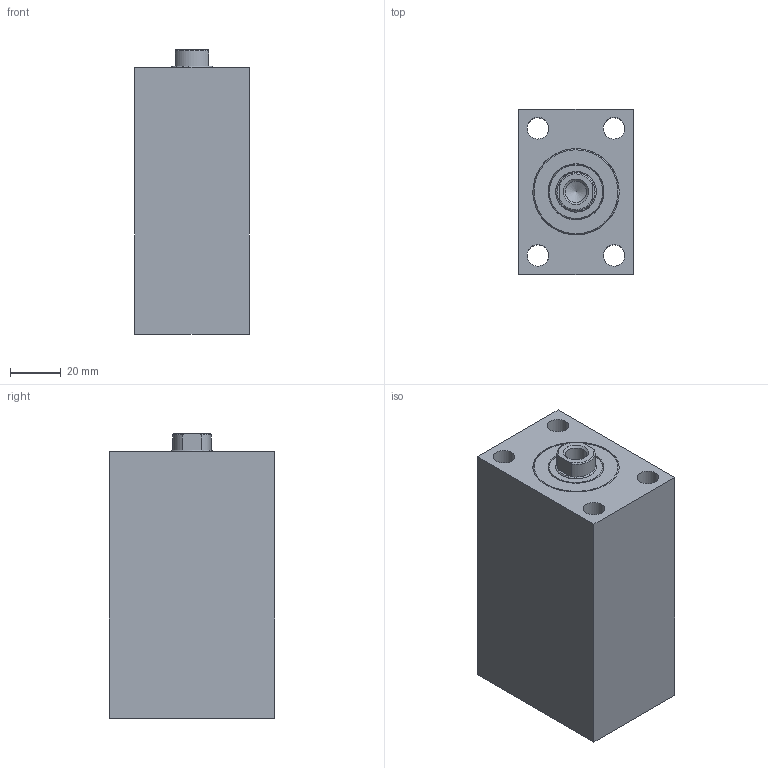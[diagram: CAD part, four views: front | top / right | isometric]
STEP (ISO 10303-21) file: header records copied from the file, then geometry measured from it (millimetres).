
FILE_DESCRIPTION( ( 'STEP AP203' ), '1' );
FILE_NAME( 'C:/Users/SAYKO.ltd/Desktop/SBZ100/02/SBZ100-25/SBZ100.25__FORM_02_STROKE_40__H2_58_POS_0_.stp', ' ', ( ' ' ), ( ' ' ), 'PSStep 15.0.47', 'PARTsolutions', ' ' );
FILE_SCHEMA( ( 'CONFIG_CONTROL_DESIGN' ) );
Length unit declared in the file: millimetre
Products named in the file (5): SBZ100.25  FORM=02 STROKE=40 (H2=58 POS=0); HI_SBZ10025  FORM=02 STROKE=40 H2=58 -C; HI_SBZ10025  FORM=02 STROKE=40-R; HI_SBZ100.25-C; HI_SBZ100.25-S
Assembly tree (4 placements, depth 2):
  SBZ100.25  FORM=02 STROKE=40 (H2=58 POS=0)
    HI_SBZ10025  FORM=02 STROKE=40 H2=58 -C
    HI_SBZ10025  FORM=02 STROKE=40-R
    HI_SBZ100.25-C
    HI_SBZ100.25-S
Bounding box: 45 x 65 x 112 mm (x, y, z)
Volume: 265089.5 mm3; surface area: 63457.2 mm2
Topology: 4 solids, 4 shells, 66 faces, 130 edges, 85 vertices
Faces by surface type: plane 31, cylinder 28, cone 4, torus 3
Full cylindrical faces by diameter (mm): 3 x2, 8.376 x1, 8.5 x4, 11.445 x2, 13.6 x4, 16 x6, 22 x1, 24 x2, 25 x2, 34 x2
Entity records: 3609 total; most frequent: CARTESIAN_POINT 2379, ORIENTED_EDGE 176, DIRECTION 158, EDGE_LOOP 128, FACE_OUTER_BOUND 93, EDGE_CURVE 88, VERTEX_POINT 77, B_SPLINE_CURVE_WITH_KNOTS 72
